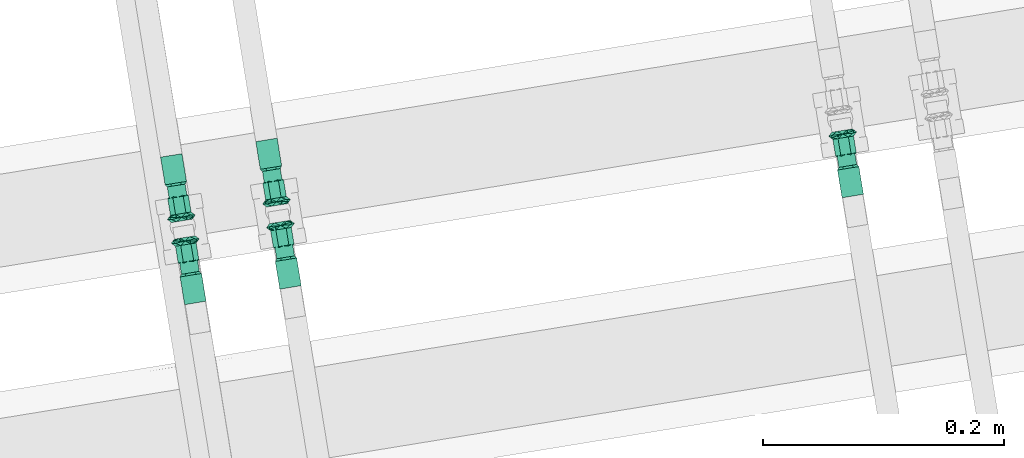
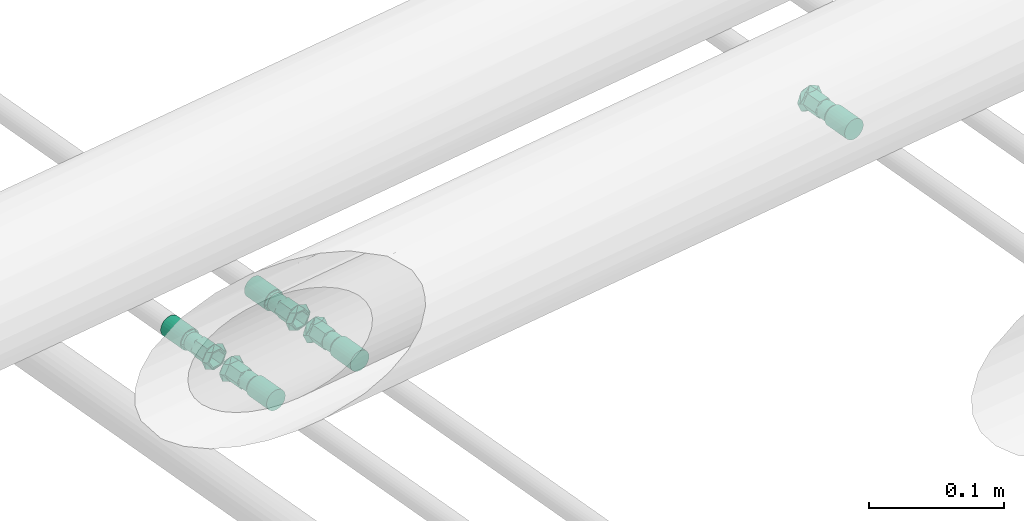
# One storey, part 46 of 56: 5 flow fittings.
"""IFC2X3 building model written with IfcOpenShell, lengths in millimetres."""

import ifcopenshell
import ifcopenshell.guid

model = None  # the IFC model being written
_history = None  # IfcOwnerHistory: only IFC2X3 demands one
_inside = {}  # id of a spatial element -> (the spatial element, [elements in it])
_under = {}  # id of a project, library or spatial element -> (it, [spatial elements below it])
_declared = {}  # id of a project -> (the project, [libraries it declares])
_typed = {}  # id of a type object -> (the type object, [elements of that type])
_made_of = {}  # id of a material, layer set ... -> (it, [elements and type objects made of it])


def new_model(schema):
    """Start an empty IFC model of exactly this schema.

    Asked for "IFC4X3", IfcOpenShell would pick the latest addendum, in which some entities
    have other attributes; the version numbers below select the first issue.
    IFC2X3 requires an IfcOwnerHistory on every rooted entity: one is made here for all.
    """
    global model, _history
    if schema == "IFC4X3":
        model = ifcopenshell.file(schema_version=(4, 3, 0, 0))
    else:
        model = ifcopenshell.file(schema=schema)
    _inside.clear()
    _under.clear()
    _declared.clear()
    _typed.clear()
    _made_of.clear()
    _history = None
    if model.schema == "IFC2X3":
        org = make("IfcOrganization", Name="unknown")
        user = make(
            "IfcPersonAndOrganization",
            ThePerson=make("IfcPerson", FamilyName="unknown"),
            TheOrganization=org,
        )
        app = make(
            "IfcApplication",
            ApplicationDeveloper=org,
            Version="unknown",
            ApplicationFullName="unknown",
            ApplicationIdentifier="unknown",
        )
        _history = make(
            "IfcOwnerHistory",
            OwningUser=user,
            OwningApplication=app,
            ChangeAction="ADDED",
            CreationDate=0,
        )
    return model


def make(cls, **values):
    """One entity of the class cls with the attributes given. An attribute that is None is left unset."""
    return model.create_entity(
        cls, **{name: value for name, value in values.items() if value is not None}
    )


def entity(cls, *values):
    """Any entity or typed value of the class cls, its attributes in the order of the schema. None: left unset."""
    e = model.create_entity(cls)
    for i, value in enumerate(values):
        if value is not None:
            e[i] = value
    return e


def rooted(cls, **values):
    """An entity with a GlobalId (a new one), such as an element, a storey or a relation."""
    return make(cls, GlobalId=ifcopenshell.guid.new(), OwnerHistory=_history, **values)


def si_unit(unit_type, name, prefix=None):
    """IfcSIUnit, for example si_unit("LENGTHUNIT", "METRE", prefix="MILLI")."""
    return make("IfcSIUnit", UnitType=unit_type, Prefix=prefix, Name=name)


def converted_unit(unit_type, name, factor, base, dimensions=None, offset=None):
    """IfcConversionBasedUnit, such as the inch: factor (a typed value) times the base unit."""
    return make(
        "IfcConversionBasedUnit"
        if offset is None
        else "IfcConversionBasedUnitWithOffset",
        ConversionOffset=offset,
        Dimensions=None
        if dimensions is None
        else entity("IfcDimensionalExponents", *dimensions),
        UnitType=unit_type,
        Name=name,
        ConversionFactor=make(
            "IfcMeasureWithUnit", ValueComponent=factor, UnitComponent=base
        ),
    )


def derived_unit(unit_type, elements):
    """IfcDerivedUnit: a product of units, each with its exponent."""
    return make(
        "IfcDerivedUnit",
        Elements=[
            make("IfcDerivedUnitElement", Unit=unit, Exponent=power)
            for unit, power in elements
        ],
        UnitType=unit_type,
    )


def assignment(units):
    """IfcUnitAssignment: the units of a project."""
    return None if units is None else make("IfcUnitAssignment", Units=units)


def point(xyz):
    """IfcCartesianPoint."""
    return None if xyz is None else make("IfcCartesianPoint", Coordinates=xyz)


def direction(xyz):
    """IfcDirection."""
    return None if xyz is None else make("IfcDirection", DirectionRatios=xyz)


def frame(location, z_axis=None, x_axis=None):
    """IfcAxis2Placement3D, a coordinate frame: its origin and axes. An axis left out is left unset."""
    return make(
        "IfcAxis2Placement3D",
        Location=point(location),
        Axis=direction(z_axis),
        RefDirection=direction(x_axis),
    )


def origin():
    """The frame at (0, 0, 0) with its axes left unset."""
    return frame((0.0, 0.0, 0.0))


def origin_with_axes():
    """The frame at (0, 0, 0) with the z axis (0, 0, 1) and the x axis (1, 0, 0) written out."""
    return frame((0.0, 0.0, 0.0), z_axis=(0.0, 0.0, 1.0), x_axis=(1.0, 0.0, 0.0))


def place(relative_to, where):
    """IfcLocalPlacement: puts the frame where relative to a parent placement (None: the world)."""
    return make(
        "IfcLocalPlacement", PlacementRelTo=relative_to, RelativePlacement=where
    )


def context(
    kind, dimensions, precision=None, world=None, true_north=None, identifier=None
):
    """IfcGeometricRepresentationContext, for example the 3D "Model" context."""
    return make(
        "IfcGeometricRepresentationContext",
        ContextIdentifier=identifier,
        ContextType=kind,
        CoordinateSpaceDimension=dimensions,
        Precision=precision,
        WorldCoordinateSystem=world,
        TrueNorth=true_north,
    )


def subcontext(parent, identifier, kind, view, scale=None):
    """IfcGeometricRepresentationSubContext, for example "Body" below "Model"."""
    return make(
        "IfcGeometricRepresentationSubContext",
        ContextIdentifier=identifier,
        ContextType=kind,
        ParentContext=parent,
        TargetScale=scale,
        TargetView=view,
    )


def project(units=None, contexts=None):
    """IfcProject with its units and contexts."""
    return rooted(
        "IfcProject",
        Name="project",
        RepresentationContexts=contexts,
        UnitsInContext=assignment(units),
    )


def spatial(cls, under=None, at=None, **own):
    """A site, building, storey or space (cls), placed at a placement, below another one or the project."""
    s = rooted(cls, ObjectPlacement=at, **own)
    if under is not None:
        _under.setdefault(under.id(), (under, []))[1].append(s)
    return s


def faces_of(points, faces, orient=None, outer=None):
    """IfcFace entities. A face is a list of loops; a loop is a list of indices into points, from 0.

    orient and outer hold one flag for each loop. By default every Orientation is true, the
    first loop of a face is its IfcFaceOuterBound and the others are IfcFaceBound.
    """
    made = []
    for i, loops in enumerate(faces):
        bounds = []
        for j, loop in enumerate(loops):
            is_outer = j == 0 if outer is None else outer[i][j]
            bounds.append(
                make(
                    "IfcFaceOuterBound" if is_outer else "IfcFaceBound",
                    Bound=make("IfcPolyLoop", Polygon=[points[k] for k in loop]),
                    Orientation=True if orient is None else orient[i][j],
                )
            )
        made.append(make("IfcFace", Bounds=bounds))
    return made


def faceted_brep(points, faces, orient=None, outer=None, voids=None):
    """IfcFacetedBrep: a solid bounded by flat faces; with voids (closed shells), ...WithVoids."""
    shared = [point(p) for p in points]
    hull = make("IfcClosedShell", CfsFaces=faces_of(shared, faces, orient, outer))
    if voids is None:
        return make("IfcFacetedBrep", Outer=hull)
    return make(
        "IfcFacetedBrepWithVoids",
        Outer=hull,
        Voids=[
            make(cls, CfsFaces=faces_of(shared, fs, o, b)) for cls, fs, o, b in voids
        ],
    )


def shape(context_of_items, identifier, shape_type, items):
    """IfcShapeRepresentation: the items that make up one representation, for example the "Body"."""
    return make(
        "IfcShapeRepresentation",
        ContextOfItems=context_of_items,
        RepresentationIdentifier=identifier,
        RepresentationType=shape_type,
        Items=items,
    )


def source(mapping_origin, context_of_items, identifier, shape_type, items):
    """IfcRepresentationMap: a shape defined once, which mapped items show again and again."""
    return make(
        "IfcRepresentationMap",
        MappingOrigin=mapping_origin,
        MappedRepresentation=shape(context_of_items, identifier, shape_type, items),
    )


def transform(
    local_origin,
    x_axis=None,
    y_axis=None,
    z_axis=None,
    scale=None,
    scale2=None,
    scale3=None,
    uniform=True,
):
    """IfcCartesianTransformationOperator3D, or its non-uniform kind. x_axis, y_axis, z_axis: its Axis1, 2, 3."""
    if uniform:
        return make(
            "IfcCartesianTransformationOperator3D",
            Axis1=direction(x_axis),
            Axis2=direction(y_axis),
            LocalOrigin=point(local_origin),
            Scale=scale,
            Axis3=direction(z_axis),
        )
    return make(
        "IfcCartesianTransformationOperator3DnonUniform",
        Axis1=direction(x_axis),
        Axis2=direction(y_axis),
        LocalOrigin=point(local_origin),
        Scale=scale,
        Axis3=direction(z_axis),
        Scale2=scale2,
        Scale3=scale3,
    )


def mapped(mapping_source, mapping_target):
    """IfcMappedItem: shows the shape of a source again, moved by a transform."""
    return make(
        "IfcMappedItem", MappingSource=mapping_source, MappingTarget=mapping_target
    )


def material(Name=None, Category=None):
    """IfcMaterial."""
    return make("IfcMaterial", Name=Name, Category=Category)


def material_list(materials):
    """IfcMaterialList."""
    return make("IfcMaterialList", Materials=materials)


def made_of(thing, what):
    """Note that an element or type object is made of a material, layer set ...; save() writes the relation."""
    if what is not None:
        _made_of.setdefault(what.id(), (what, []))[1].append(thing)
    return thing


def type_object(cls, material=None, **own):
    """A type object (cls), such as IfcWallType, which elements share."""
    return made_of(rooted(cls, **own), material)


def element(
    cls,
    number,
    at=None,
    inside=None,
    cuts=None,
    type_object=None,
    material=None,
    context=None,
    identifier="Body",
    shape_type=None,
    held_by="IfcProductDefinitionShape",
    body=None,
    shapes=None,
    **own,
):
    """One element of the class cls, such as IfcWall. Its Tag is "e" and its number.

    at: its placement. inside: the storey or other place that contains it. cuts: it is an
    opening in that element (IfcRelVoidsElement). A single representation is given by context,
    identifier, shape_type and body (its items); several are given by shapes. held_by: the class
    of the entity that holds the representations. save() writes the other relations.
    """
    e = rooted(cls, Tag="e%d" % number, ObjectPlacement=at, **own)
    if body is not None:
        shapes = [shape(context, identifier, shape_type, body)]
    if shapes is not None:
        e.Representation = make(held_by, Representations=shapes)
    if inside is not None:
        _inside.setdefault(inside.id(), (inside, []))[1].append(e)
    if cuts is not None:
        rooted(
            "IfcRelVoidsElement", RelatingBuildingElement=cuts, RelatedOpeningElement=e
        )
    if type_object is not None:
        _typed.setdefault(type_object.id(), (type_object, []))[1].append(e)
    return made_of(e, material)


def aggregate(whole, parts):
    """IfcRelAggregates: a whole, such as a stair, and the parts it consists of."""
    return rooted("IfcRelAggregates", RelatingObject=whole, RelatedObjects=parts)


def save(model, path):
    """Write the relations noted so far, then the file.

    IfcRelAggregates (storeys below a building ...), IfcRelContainedInSpatialStructure (elements
    in a storey), IfcRelDefinesByType, IfcRelAssociatesMaterial and IfcRelDeclares: one each for
    every whole, place, type object, material and project.
    """
    for whole, parts in _under.values():
        aggregate(whole, parts)
    for where, things in _inside.values():
        rooted(
            "IfcRelContainedInSpatialStructure",
            RelatedElements=things,
            RelatingStructure=where,
        )
    for kind, things in _typed.values():
        rooted("IfcRelDefinesByType", RelatedObjects=things, RelatingType=kind)
    for what, things in _made_of.values():
        rooted("IfcRelAssociatesMaterial", RelatedObjects=things, RelatingMaterial=what)
    for by, libraries in _declared.values():
        rooted("IfcRelDeclares", RelatingContext=by, RelatedDefinitions=libraries)
    model.write(path)


model = new_model("IFC2X3")

# Units and contexts
model_context = context("Model", 3, precision=0.01, world=origin(), true_north=direction((6.12323399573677e-17, 1.0)))
plan_context = context("Plan", 3, precision=1e-05, world=origin_with_axes())
body_context = subcontext(model_context, "Body", "Model", "MODEL_VIEW")
ifc_project = project(units=[converted_unit("PLANEANGLEUNIT", "DEGREE", entity("IfcPositiveLengthMeasure", 0.0174532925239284), si_unit("PLANEANGLEUNIT", "RADIAN"), dimensions=[0, 0, 0, 0, 0, 0, 0]), si_unit("AREAUNIT", "SQUARE_METRE"), si_unit("LENGTHUNIT", "METRE", prefix="MILLI"), si_unit("MASSUNIT", "GRAM", prefix="KILO"), si_unit("POWERUNIT", "WATT"), si_unit("PRESSUREUNIT", "PASCAL", prefix="KILO"), si_unit("FORCEUNIT", "NEWTON", prefix="KILO"), si_unit("ELECTRICVOLTAGEUNIT", "VOLT"), si_unit("ELECTRICCURRENTUNIT", "AMPERE"), si_unit("THERMODYNAMICTEMPERATUREUNIT", "DEGREE_CELSIUS"), si_unit("TIMEUNIT", "SECOND"), si_unit("VOLUMEUNIT", "CUBIC_METRE"), derived_unit("LINEARVELOCITYUNIT", [(si_unit("LENGTHUNIT", "METRE"), 1), (si_unit("TIMEUNIT", "SECOND"), -1)]), derived_unit("VOLUMETRICFLOWRATEUNIT", [(si_unit("VOLUMEUNIT", "CUBIC_METRE"), 1), (si_unit("TIMEUNIT", "SECOND"), -1)]), derived_unit("THERMALTRANSMITTANCEUNIT", [(si_unit("POWERUNIT", "WATT"), 1), (si_unit("THERMODYNAMICTEMPERATUREUNIT", "KELVIN"), -1), (si_unit("AREAUNIT", "SQUARE_METRE"), -1)]), derived_unit("SOUNDPRESSUREUNIT", [(si_unit("PRESSUREUNIT", "PASCAL"), 1)])], contexts=[model_context, plan_context])

# Site, building, storey
site_placement = place(None, frame((-3.09682673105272e-06, 1.93776733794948e-05, 0.0), z_axis=(0.0, 0.0, 1.0), x_axis=(-0.160806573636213, 0.986985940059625, 0.0)))
site = spatial("IfcSite", under=ifc_project, at=site_placement, Name="Default", CompositionType="ELEMENT")
building_placement = place(site_placement, frame((0.0, 0.0, 0.0), z_axis=(0.0, 0.0, 1.0), x_axis=(1.0, -2.77555756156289e-17, 0.0)))
building = spatial("IfcBuilding", under=site, at=building_placement, Name="Bygning (endres i Project Information)", CompositionType="ELEMENT")
storey_placement = place(building_placement, frame((0.0, 0.0, 51360.0000000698), z_axis=(0.0, 0.0, 1.0), x_axis=(1.0, -2.77555756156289e-17, 0.0)))
storey = spatial("IfcBuildingStorey", under=building, at=storey_placement, Name="H01-Nivå D+0,36", CompositionType="ELEMENT", Elevation=51360.0000000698)

# Flow fittings
ifc_material_1 = material(Name="Geberit_Plastic_Red")
ifc_material_2 = material(Name="Geberit_Mapress_C-Steel")
ifc_material_list = material_list([ifc_material_1, ifc_material_2])
pipe_fitting_type_1 = type_object("IfcPipeFittingType", Name="PRO_103183:DN10-100 / d12-108 - OD", PredefinedType="TRANSITION", material=ifc_material_list)
shared_shape_1 = source(origin(), body_context, "Body", "Brep", [
    faceted_brep([(-14.0, -8.70000000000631, 0.0), (-14.0, -4.35000000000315, -7.53442101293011), (-20.0, -4.35000000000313, -7.53442101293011), (-20.0, -8.7000000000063, 0.0), (-14.0, 4.3500000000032, -7.53442101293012), (-20.0, 4.35000000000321, -7.53442101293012), (-14.0, 8.70000000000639, 0.0), (-20.0, 8.7000000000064, 0.0), (-14.0, 4.35000000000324, 7.5344210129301), (-20.0, 4.35000000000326, 7.5344210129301), (-14.0, -4.3500000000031, 7.53442101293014), (-20.0, -4.35000000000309, 7.53442101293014), (-16.4241214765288, -8.2588311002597, -8.20848959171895), (-17.0, -11.7000000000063, 0.0), (-18.5000000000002, -10.2000000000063, 0.0), (-15.5000000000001, 10.2000000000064, 0.0), (-15.5000000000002, -10.2000000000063, 0.0), (-16.9999999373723, -2.76994209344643e-07, -11.7000000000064), (-18.5000000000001, 10.2000000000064, 0.0), (-17.575878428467, 8.25883091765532, -8.20848980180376), (-17.0, 11.7000000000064, 0.0), (-16.424121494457, 8.25883104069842, 8.20848965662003), (-17.5758784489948, -8.25883086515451, 8.20848984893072), (-16.9999999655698, 1.58419149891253e-07, 11.7000000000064)], [[[0, 1, 2, 3]], [[1, 4, 5, 2]], [[4, 6, 7, 5]], [[6, 8, 9, 7]], [[8, 10, 11, 9]], [[10, 0, 3, 11]], [[12, 13, 14]], [[15, 6, 4]], [[16, 13, 12]], [[17, 14, 2]], [[18, 19, 5]], [[5, 19, 17]], [[14, 17, 12]], [[2, 5, 17]], [[20, 19, 18]], [[0, 16, 1]], [[19, 20, 15]], [[15, 4, 17]], [[16, 12, 1]], [[18, 5, 7]], [[14, 3, 2]], [[15, 17, 19]], [[1, 12, 17]], [[4, 1, 17]], [[21, 20, 18]], [[11, 22, 23]], [[15, 20, 21]], [[23, 18, 9]], [[23, 21, 18]], [[15, 21, 8]], [[22, 16, 23]], [[10, 8, 23]], [[13, 22, 14]], [[14, 22, 11]], [[22, 13, 16]], [[16, 10, 23]], [[8, 21, 23]], [[6, 15, 8]], [[9, 11, 23]], [[14, 11, 3]], [[16, 0, 10]], [[18, 7, 9]]]),
    faceted_brep([(1.0, -7.50000000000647, 0.0), (1.0, -3.75000000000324, -6.49519052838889), (-20.0, -3.75000000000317, -6.49519052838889), (-20.0, -7.5000000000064, 0.0), (1.0, 3.75000000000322, -6.4951905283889), (-20.0, 3.75000000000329, -6.4951905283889), (1.0, 7.50000000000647, 0.0), (-20.0, 7.50000000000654, 0.0), (1.0, 3.75000000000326, 6.49519052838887), (-20.0, 3.75000000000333, 6.49519052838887), (1.0, -3.7500000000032, 6.49519052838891), (-20.0, -3.75000000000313, 6.49519052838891), (-20.0, 4.35000000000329, -7.53442101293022), (-20.0, 8.70000000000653, 0.0), (-20.0, -4.35000000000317, -7.53442101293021), (-20.0, -8.7000000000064, 0.0), (-20.0, -4.35000000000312, 7.53442101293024), (-20.0, 4.35000000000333, 7.5344210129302), (0.0, -4.35000000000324, -7.53442101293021), (0.0, -8.70000000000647, 0.0), (0.0, 4.35000000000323, -7.53442101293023), (0.0, 8.70000000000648, 0.0), (0.0, 4.35000000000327, 7.5344210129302), (0.0, -4.35000000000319, 7.53442101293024)], [[[0, 1, 2, 3]], [[1, 4, 5, 2]], [[4, 6, 7, 5]], [[6, 8, 9, 7]], [[8, 10, 11, 9]], [[10, 0, 3, 11]], [[12, 7, 13]], [[7, 12, 5]], [[2, 5, 12]], [[12, 14, 2]], [[3, 2, 14]], [[14, 15, 3]], [[16, 3, 15]], [[3, 16, 11]], [[17, 11, 16]], [[7, 9, 17]], [[11, 17, 9]], [[17, 13, 7]], [[15, 14, 18, 19]], [[14, 12, 20, 18]], [[12, 13, 21, 20]], [[13, 17, 22, 21]], [[17, 16, 23, 22]], [[16, 15, 19, 23]], [[19, 18, 1, 0]], [[18, 20, 4, 1]], [[20, 21, 6, 4]], [[21, 22, 8, 6]], [[22, 23, 10, 8]], [[23, 19, 0, 10]]]),
    faceted_brep([(35.0, 4.49999999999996, -7.79422863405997), (35.0, 6.36396103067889, -6.36396103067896), (35.0, 7.79422863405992, -4.50000000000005), (35.0, 8.6933324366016, -2.32937140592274), (35.0, 9.0, 0.0), (35.0, 8.69333243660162, 2.32937140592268), (35.0, 7.79422863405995, 4.5), (35.0, 6.36396103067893, 6.36396103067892), (35.0, 4.50000000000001, 7.79422863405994), (35.0, 2.3293714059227, 8.69333243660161), (35.0, 0.0, 9.0), (35.0, -2.32937140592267, 8.69333243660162), (35.0, -4.49999999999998, 7.79422863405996), (35.0, -6.36396103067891, 6.36396103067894), (35.0, -7.79422863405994, 4.50000000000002), (35.0, -8.69333243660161, 2.32937140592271), (35.0, -9.0, 0.0), (35.0, -8.69333243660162, -2.32937140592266), (35.0, -7.79422863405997, -4.49999999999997), (35.0, -6.36396103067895, -6.3639610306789), (35.0, -4.50000000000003, -7.79422863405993), (35.0, -2.32937140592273, -8.6933324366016), (35.0, 0.0, -9.0), (35.0, 2.32937140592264, -8.69333243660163), (11.7058823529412, 0.0, 9.0), (11.7058823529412, 2.3293714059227, 8.69333243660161), (11.7058823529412, 4.50000000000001, 7.79422863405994), (11.7058823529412, 6.36396103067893, 6.36396103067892), (11.7058823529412, 7.79422863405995, 4.5), (11.7058823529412, 8.69333243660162, 2.32937140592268), (11.7058823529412, 9.0, 0.0), (11.7058823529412, 8.6933324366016, -2.32937140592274), (11.7058823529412, 7.79422863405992, -4.50000000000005), (11.7058823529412, 6.36396103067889, -6.36396103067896), (11.7058823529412, 4.49999999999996, -7.79422863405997), (11.7058823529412, 2.32937140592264, -8.69333243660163), (11.7058823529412, 0.0, -9.0), (11.7058823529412, -2.32937140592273, -8.6933324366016), (11.7058823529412, -4.50000000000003, -7.79422863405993), (11.7058823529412, -6.36396103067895, -6.3639610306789), (11.7058823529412, -7.79422863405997, -4.49999999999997), (11.7058823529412, -8.69333243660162, -2.32937140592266), (11.7058823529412, -9.0, 0.0), (11.7058823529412, -8.69333243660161, 2.32937140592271), (11.7058823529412, -7.79422863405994, 4.50000000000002), (11.7058823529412, -6.36396103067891, 6.36396103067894), (11.7058823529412, -4.49999999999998, 7.79422863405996), (11.7058823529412, -2.32937140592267, 8.69333243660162)], [[[0, 1, 2, 3, 4, 5, 6, 7, 8, 9, 10, 11, 12, 13, 14, 15, 16, 17, 18, 19, 20, 21, 22, 23]], [[24, 25, 26, 27, 28, 29, 30, 31, 32, 33, 34, 35, 36, 37, 38, 39, 40, 41, 42, 43, 44, 45, 46, 47]], [[41, 17, 16, 42]], [[40, 18, 17, 41]], [[20, 19, 39, 38]], [[40, 39, 19, 18]], [[21, 20, 38, 37]], [[22, 21, 37, 36]], [[35, 23, 22, 36]], [[34, 0, 23, 35]], [[2, 1, 33, 32]], [[34, 33, 1, 0]], [[3, 2, 32, 31]], [[4, 3, 31, 30]], [[29, 5, 4, 30]], [[28, 6, 5, 29]], [[8, 7, 27, 26]], [[28, 27, 7, 6]], [[9, 8, 26, 25]], [[10, 9, 25, 24]], [[47, 11, 10, 24]], [[46, 12, 11, 47]], [[14, 13, 45, 44]], [[46, 45, 13, 12]], [[15, 14, 44, 43]], [[16, 15, 43, 42]]]),
    faceted_brep([(11.7058823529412, 9.0, 0.0), (11.7058823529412, 4.50000000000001, 7.79422863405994), (11.7058823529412, -4.49999999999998, 7.79422863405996), (11.7058823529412, -9.0, 0.0), (11.7058823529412, -4.50000000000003, -7.79422863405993), (11.7058823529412, 4.49999999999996, -7.79422863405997), (9.70588235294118, 3.75000000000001, 6.49519052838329), (9.70588235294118, 7.5, 0.0), (9.70588235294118, 3.74999999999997, -6.49519052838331), (9.70588235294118, -3.75000000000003, -6.49519052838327), (9.70588235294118, -7.5, 0.0), (9.70588235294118, -3.74999999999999, 6.4951905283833)], [[[0, 1, 2, 3, 4, 5]], [[6, 7, 8, 9, 10, 11]], [[10, 9, 4, 3]], [[9, 8, 5, 4]], [[8, 7, 0, 5]], [[7, 6, 1, 0]], [[6, 11, 2, 1]], [[11, 10, 3, 2]]]),
    faceted_brep([(9.70588235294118, 3.74999999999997, -6.49519052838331), (9.70588235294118, 5.30330085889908, -5.30330085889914), (9.70588235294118, 6.49519052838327, -3.75000000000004), (9.70588235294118, 7.244443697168, -1.94114283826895), (9.70588235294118, 7.5, 0.0), (9.70588235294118, 7.24444369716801, 1.9411428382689), (9.70588235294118, 6.49519052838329, 3.75), (9.70588235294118, 5.30330085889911, 5.3033008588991), (9.70588235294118, 3.75000000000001, 6.49519052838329), (9.70588235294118, 1.94114283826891, 7.24444369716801), (9.70588235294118, 0.0, 7.5), (9.70588235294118, -1.94114283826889, 7.24444369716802), (9.70588235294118, -3.74999999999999, 6.4951905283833), (9.70588235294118, -5.3033008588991, 5.30330085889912), (9.70588235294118, -6.49519052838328, 3.75000000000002), (9.70588235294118, -7.24444369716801, 1.94114283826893), (9.70588235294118, -7.5, 0.0), (9.70588235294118, -7.24444369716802, -1.94114283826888), (9.70588235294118, -6.4951905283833, -3.74999999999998), (9.70588235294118, -5.30330085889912, -5.30330085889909), (9.70588235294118, -3.75000000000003, -6.49519052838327), (9.70588235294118, -1.94114283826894, -7.244443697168), (9.70588235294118, 0.0, -7.5), (9.70588235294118, 1.94114283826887, -7.24444369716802), (0.0, 5.30330085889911, 5.3033008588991), (0.0, 6.49519052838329, 3.75), (0.0, 7.24444369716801, 1.9411428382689), (0.0, 7.5, 0.0), (0.0, 7.244443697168, -1.94114283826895), (0.0, 6.49519052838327, -3.75000000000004), (0.0, 5.30330085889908, -5.30330085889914), (0.0, 3.74999999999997, -6.49519052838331), (0.0, 1.94114283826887, -7.24444369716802), (0.0, 0.0, -7.5), (0.0, -1.94114283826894, -7.244443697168), (0.0, -3.75000000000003, -6.49519052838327), (0.0, -5.30330085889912, -5.30330085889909), (0.0, -6.4951905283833, -3.74999999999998), (0.0, -7.24444369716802, -1.94114283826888), (0.0, -7.5, 0.0), (0.0, -7.24444369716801, 1.94114283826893), (0.0, -6.49519052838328, 3.75000000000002), (0.0, -5.3033008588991, 5.30330085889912), (0.0, -3.74999999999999, 6.4951905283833), (0.0, -1.94114283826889, 7.24444369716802), (0.0, 0.0, 7.5), (0.0, 1.94114283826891, 7.24444369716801), (0.0, 3.75000000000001, 6.49519052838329)], [[[0, 1, 2, 3, 4, 5, 6, 7, 8, 9, 10, 11, 12, 13, 14, 15, 16, 17, 18, 19, 20, 21, 22, 23]], [[24, 25, 26, 27, 28, 29, 30, 31, 32, 33, 34, 35, 36, 37, 38, 39, 40, 41, 42, 43, 44, 45, 46, 47]], [[38, 17, 16, 39]], [[37, 18, 17, 38]], [[20, 19, 36, 35]], [[37, 36, 19, 18]], [[21, 20, 35, 34]], [[22, 21, 34, 33]], [[32, 23, 22, 33]], [[31, 0, 23, 32]], [[2, 1, 30, 29]], [[31, 30, 1, 0]], [[3, 2, 29, 28]], [[4, 3, 28, 27]], [[26, 5, 4, 27]], [[25, 6, 5, 26]], [[8, 7, 24, 47]], [[25, 24, 7, 6]], [[9, 8, 47, 46]], [[10, 9, 46, 45]], [[44, 11, 10, 45]], [[43, 12, 11, 44]], [[14, 13, 42, 41]], [[43, 42, 13, 12]], [[15, 14, 41, 40]], [[16, 15, 40, 39]]]),
])
for number, where, z_axis, x_axis in (
    (1, (1011829.82274136, -386894.200478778, 3299.99999997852), (0.0, 0.0, 1.0), (-1.0, 2.77555756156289e-17, 0.0)),
    (2, (1011829.99429018, -386421.651949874, 3299.99999997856), (0.0, 0.0, 1.0), (-1.0, 2.77555756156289e-17, 0.0)),
):
    element("IfcFlowFitting", number, at=place(storey_placement, frame(where, z_axis=z_axis, x_axis=x_axis)), inside=storey, type_object=pipe_fitting_type_1, material=ifc_material_list, Name="PRO_103183:DN10-100 / d12-108 - OD", ObjectType="PRO_103183:DN10-100 / d12-108 - OD", context=body_context, shape_type="MappedRepresentation", body=[
        mapped(shared_shape_1, transform((0.0, 0.0, 0.0), scale=1.0)),
    ])
pipe_fitting_type_2 = type_object("IfcPipeFittingType", Name="PRO_103183:DN10-100 / d12-108 - OD", PredefinedType="TRANSITION", material=ifc_material_list)
shared_shape_2 = source(origin(), body_context, "Body", "Brep", [
    faceted_brep([(-20.0, 8.7000000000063, 0.0), (-20.0, 4.35000000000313, -7.53442101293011), (-14.0, 4.35000000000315, -7.53442101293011), (-14.0, 8.70000000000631, 0.0), (-20.0, -4.35000000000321, -7.53442101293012), (-14.0, -4.3500000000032, -7.53442101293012), (-20.0, -8.7000000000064, 0.0), (-14.0, -8.70000000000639, 0.0), (-20.0, -4.35000000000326, 7.5344210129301), (-14.0, -4.35000000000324, 7.5344210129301), (-20.0, 4.35000000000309, 7.53442101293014), (-14.0, 4.3500000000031, 7.53442101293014), (-18.5000000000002, 10.2000000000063, 0.0), (-17.0, 11.7000000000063, 0.0), (-16.4241214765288, 8.2588311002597, -8.20848959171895), (-15.5000000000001, -10.2000000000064, 0.0), (-15.5000000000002, 10.2000000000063, 0.0), (-16.9999999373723, 2.76994209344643e-07, -11.7000000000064), (-17.575878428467, -8.25883091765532, -8.20848980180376), (-18.5000000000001, -10.2000000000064, 0.0), (-17.0, -11.7000000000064, 0.0), (-16.424121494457, -8.25883104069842, 8.20848965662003), (-16.9999999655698, -1.58419149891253e-07, 11.7000000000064), (-17.5758784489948, 8.25883086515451, 8.20848984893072)], [[[0, 1, 2, 3]], [[1, 4, 5, 2]], [[4, 6, 7, 5]], [[6, 8, 9, 7]], [[8, 10, 11, 9]], [[10, 0, 3, 11]], [[12, 13, 14]], [[5, 7, 15]], [[14, 13, 16]], [[1, 12, 17]], [[4, 18, 19]], [[17, 18, 4]], [[14, 17, 12]], [[17, 4, 1]], [[19, 18, 20]], [[2, 16, 3]], [[15, 20, 18]], [[17, 5, 15]], [[2, 14, 16]], [[6, 4, 19]], [[1, 0, 12]], [[18, 17, 15]], [[17, 14, 2]], [[17, 2, 5]], [[19, 20, 21]], [[22, 23, 10]], [[21, 20, 15]], [[8, 19, 22]], [[19, 21, 22]], [[9, 21, 15]], [[22, 16, 23]], [[22, 9, 11]], [[12, 23, 13]], [[10, 23, 12]], [[16, 13, 23]], [[22, 11, 16]], [[22, 21, 9]], [[9, 15, 7]], [[22, 10, 8]], [[0, 10, 12]], [[11, 3, 16]], [[8, 6, 19]]]),
    faceted_brep([(-20.0, 7.5000000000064, 0.0), (-20.0, 3.75000000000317, -6.49519052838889), (1.0, 3.75000000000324, -6.49519052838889), (1.0, 7.50000000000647, 0.0), (-20.0, -3.75000000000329, -6.4951905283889), (1.0, -3.75000000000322, -6.4951905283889), (-20.0, -7.50000000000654, 0.0), (1.0, -7.50000000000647, 0.0), (-20.0, -3.75000000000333, 6.49519052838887), (1.0, -3.75000000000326, 6.49519052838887), (-20.0, 3.75000000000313, 6.49519052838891), (1.0, 3.7500000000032, 6.49519052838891), (-20.0, -8.70000000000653, 0.0), (-20.0, -4.35000000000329, -7.53442101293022), (-20.0, -4.35000000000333, 7.5344210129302), (-20.0, 4.35000000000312, 7.53442101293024), (-20.0, 8.7000000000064, 0.0), (-20.0, 4.35000000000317, -7.53442101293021), (0.0, 8.70000000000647, 0.0), (0.0, 4.35000000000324, -7.53442101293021), (0.0, -4.35000000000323, -7.53442101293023), (0.0, -8.70000000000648, 0.0), (0.0, -4.35000000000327, 7.5344210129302), (0.0, 4.35000000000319, 7.53442101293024)], [[[0, 1, 2, 3]], [[1, 4, 5, 2]], [[4, 6, 7, 5]], [[6, 8, 9, 7]], [[8, 10, 11, 9]], [[10, 0, 3, 11]], [[12, 6, 13]], [[6, 12, 14]], [[14, 8, 6]], [[8, 14, 10]], [[15, 10, 14]], [[10, 15, 0]], [[16, 0, 15]], [[0, 16, 17]], [[1, 17, 13]], [[17, 1, 0]], [[4, 13, 6]], [[13, 4, 1]], [[18, 19, 17, 16]], [[19, 20, 13, 17]], [[20, 21, 12, 13]], [[21, 22, 14, 12]], [[22, 23, 15, 14]], [[23, 18, 16, 15]], [[2, 19, 18, 3]], [[2, 5, 20, 19]], [[7, 21, 20, 5]], [[9, 22, 21, 7]], [[9, 11, 23, 22]], [[3, 18, 23, 11]]]),
    faceted_brep([(35.0, -2.32937140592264, -8.69333243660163), (35.0, 0.0, -9.0), (35.0, 2.32937140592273, -8.6933324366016), (35.0, 4.50000000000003, -7.79422863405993), (35.0, 6.36396103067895, -6.3639610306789), (35.0, 7.79422863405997, -4.49999999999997), (35.0, 8.69333243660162, -2.32937140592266), (35.0, 9.0, 0.0), (35.0, 8.69333243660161, 2.32937140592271), (35.0, 7.79422863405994, 4.50000000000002), (35.0, 6.36396103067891, 6.36396103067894), (35.0, 4.49999999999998, 7.79422863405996), (35.0, 2.32937140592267, 8.69333243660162), (35.0, 0.0, 9.0), (35.0, -2.3293714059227, 8.69333243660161), (35.0, -4.50000000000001, 7.79422863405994), (35.0, -6.36396103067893, 6.36396103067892), (35.0, -7.79422863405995, 4.5), (35.0, -8.69333243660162, 2.32937140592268), (35.0, -9.0, 0.0), (35.0, -8.6933324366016, -2.32937140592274), (35.0, -7.79422863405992, -4.50000000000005), (35.0, -6.36396103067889, -6.36396103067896), (35.0, -4.49999999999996, -7.79422863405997), (11.7058823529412, -4.50000000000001, 7.79422863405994), (11.7058823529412, -2.3293714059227, 8.69333243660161), (11.7058823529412, 0.0, 9.0), (11.7058823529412, 2.32937140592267, 8.69333243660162), (11.7058823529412, 4.49999999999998, 7.79422863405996), (11.7058823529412, 6.36396103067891, 6.36396103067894), (11.7058823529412, 7.79422863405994, 4.50000000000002), (11.7058823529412, 8.69333243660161, 2.32937140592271), (11.7058823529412, 9.0, 0.0), (11.7058823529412, 8.69333243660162, -2.32937140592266), (11.7058823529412, 7.79422863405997, -4.49999999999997), (11.7058823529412, 6.36396103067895, -6.3639610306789), (11.7058823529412, 4.50000000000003, -7.79422863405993), (11.7058823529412, 2.32937140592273, -8.6933324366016), (11.7058823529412, 0.0, -9.0), (11.7058823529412, -2.32937140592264, -8.69333243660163), (11.7058823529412, -4.49999999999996, -7.79422863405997), (11.7058823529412, -6.36396103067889, -6.36396103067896), (11.7058823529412, -7.79422863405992, -4.50000000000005), (11.7058823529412, -8.6933324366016, -2.32937140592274), (11.7058823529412, -9.0, 0.0), (11.7058823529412, -8.69333243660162, 2.32937140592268), (11.7058823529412, -7.79422863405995, 4.5), (11.7058823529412, -6.36396103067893, 6.36396103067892)], [[[0, 1, 2, 3, 4, 5, 6, 7, 8, 9, 10, 11, 12, 13, 14, 15, 16, 17, 18, 19, 20, 21, 22, 23]], [[24, 25, 26, 27, 28, 29, 30, 31, 32, 33, 34, 35, 36, 37, 38, 39, 40, 41, 42, 43, 44, 45, 46, 47]], [[32, 7, 6, 33]], [[33, 6, 5, 34]], [[36, 35, 4, 3]], [[4, 35, 34, 5]], [[37, 36, 3, 2]], [[37, 2, 1, 38]], [[38, 1, 0, 39]], [[39, 0, 23, 40]], [[42, 41, 22, 21]], [[22, 41, 40, 23]], [[43, 42, 21, 20]], [[43, 20, 19, 44]], [[44, 19, 18, 45]], [[45, 18, 17, 46]], [[24, 47, 16, 15]], [[16, 47, 46, 17]], [[25, 24, 15, 14]], [[25, 14, 13, 26]], [[26, 13, 12, 27]], [[27, 12, 11, 28]], [[30, 29, 10, 9]], [[10, 29, 28, 11]], [[31, 30, 9, 8]], [[31, 8, 7, 32]]]),
    faceted_brep([(11.7058823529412, 4.49999999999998, 7.79422863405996), (11.7058823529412, -4.50000000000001, 7.79422863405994), (11.7058823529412, -9.0, 0.0), (11.7058823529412, -4.49999999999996, -7.79422863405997), (11.7058823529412, 4.50000000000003, -7.79422863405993), (11.7058823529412, 9.0, 0.0), (9.70588235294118, 7.5, 0.0), (9.70588235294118, 3.75000000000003, -6.49519052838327), (9.70588235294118, -3.74999999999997, -6.49519052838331), (9.70588235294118, -7.5, 0.0), (9.70588235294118, -3.75000000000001, 6.49519052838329), (9.70588235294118, 3.74999999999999, 6.4951905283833)], [[[0, 1, 2, 3, 4, 5]], [[6, 7, 8, 9, 10, 11]], [[4, 7, 6, 5]], [[4, 3, 8, 7]], [[2, 9, 8, 3]], [[1, 10, 9, 2]], [[1, 0, 11, 10]], [[5, 6, 11, 0]]]),
    faceted_brep([(9.70588235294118, -3.74999999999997, -6.49519052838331), (9.70588235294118, -1.94114283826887, -7.24444369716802), (9.70588235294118, 0.0, -7.5), (9.70588235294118, 1.94114283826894, -7.244443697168), (9.70588235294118, 3.75000000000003, -6.49519052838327), (9.70588235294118, 5.30330085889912, -5.30330085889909), (9.70588235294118, 6.4951905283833, -3.74999999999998), (9.70588235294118, 7.24444369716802, -1.94114283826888), (9.70588235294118, 7.5, 0.0), (9.70588235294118, 7.24444369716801, 1.94114283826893), (9.70588235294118, 6.49519052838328, 3.75000000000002), (9.70588235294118, 5.3033008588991, 5.30330085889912), (9.70588235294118, 3.74999999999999, 6.4951905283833), (9.70588235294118, 1.94114283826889, 7.24444369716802), (9.70588235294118, 0.0, 7.5), (9.70588235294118, -1.94114283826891, 7.24444369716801), (9.70588235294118, -3.75000000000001, 6.49519052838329), (9.70588235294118, -5.30330085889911, 5.3033008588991), (9.70588235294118, -6.49519052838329, 3.75), (9.70588235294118, -7.24444369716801, 1.9411428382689), (9.70588235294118, -7.5, 0.0), (9.70588235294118, -7.244443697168, -1.94114283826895), (9.70588235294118, -6.49519052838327, -3.75000000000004), (9.70588235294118, -5.30330085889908, -5.30330085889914), (0.0, -1.94114283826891, 7.24444369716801), (0.0, 0.0, 7.5), (0.0, 1.94114283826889, 7.24444369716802), (0.0, 3.74999999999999, 6.4951905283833), (0.0, 5.3033008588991, 5.30330085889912), (0.0, 6.49519052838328, 3.75000000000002), (0.0, 7.24444369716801, 1.94114283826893), (0.0, 7.5, 0.0), (0.0, 7.24444369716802, -1.94114283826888), (0.0, 6.4951905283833, -3.74999999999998), (0.0, 5.30330085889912, -5.30330085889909), (0.0, 3.75000000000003, -6.49519052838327), (0.0, 1.94114283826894, -7.244443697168), (0.0, 0.0, -7.5), (0.0, -1.94114283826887, -7.24444369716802), (0.0, -3.74999999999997, -6.49519052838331), (0.0, -5.30330085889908, -5.30330085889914), (0.0, -6.49519052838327, -3.75000000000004), (0.0, -7.244443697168, -1.94114283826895), (0.0, -7.5, 0.0), (0.0, -7.24444369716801, 1.9411428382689), (0.0, -6.49519052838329, 3.75), (0.0, -5.30330085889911, 5.3033008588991), (0.0, -3.75000000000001, 6.49519052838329)], [[[0, 1, 2, 3, 4, 5, 6, 7, 8, 9, 10, 11, 12, 13, 14, 15, 16, 17, 18, 19, 20, 21, 22, 23]], [[24, 25, 26, 27, 28, 29, 30, 31, 32, 33, 34, 35, 36, 37, 38, 39, 40, 41, 42, 43, 44, 45, 46, 47]], [[31, 8, 7, 32]], [[32, 7, 6, 33]], [[35, 34, 5, 4]], [[5, 34, 33, 6]], [[36, 35, 4, 3]], [[36, 3, 2, 37]], [[37, 2, 1, 38]], [[38, 1, 0, 39]], [[41, 40, 23, 22]], [[23, 40, 39, 0]], [[42, 41, 22, 21]], [[42, 21, 20, 43]], [[43, 20, 19, 44]], [[44, 19, 18, 45]], [[47, 46, 17, 16]], [[17, 46, 45, 18]], [[24, 47, 16, 15]], [[24, 15, 14, 25]], [[25, 14, 13, 26]], [[26, 13, 12, 27]], [[29, 28, 11, 10]], [[11, 28, 27, 12]], [[30, 29, 10, 9]], [[30, 9, 8, 31]]]),
])
for number, where, z_axis, x_axis in (
    (3, (1011829.99429018, -386341.6268451, 3299.99999997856), (0.0, 0.0, 1.0), (-1.0, 2.77555756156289e-17, 0.0)),
    (4, (1011883.99429018, -386341.6268451, 3299.99999997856), (0.0, 0.0, 1.0), (1.0, -2.77555756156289e-17, 0.0)),
    (5, (1011883.99429018, -386421.651949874, 3299.99999997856), (0.0, 0.0, 1.0), (1.0, -2.77555756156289e-17, 0.0)),
):
    element("IfcFlowFitting", number, at=place(storey_placement, frame(where, z_axis=z_axis, x_axis=x_axis)), inside=storey, type_object=pipe_fitting_type_2, material=ifc_material_list, Name="PRO_103183:DN10-100 / d12-108 - OD", ObjectType="PRO_103183:DN10-100 / d12-108 - OD", context=body_context, shape_type="MappedRepresentation", body=[
        mapped(shared_shape_2, transform((0.0, 0.0, 0.0), scale=1.0)),
    ])

save(model, "model.ifc")
